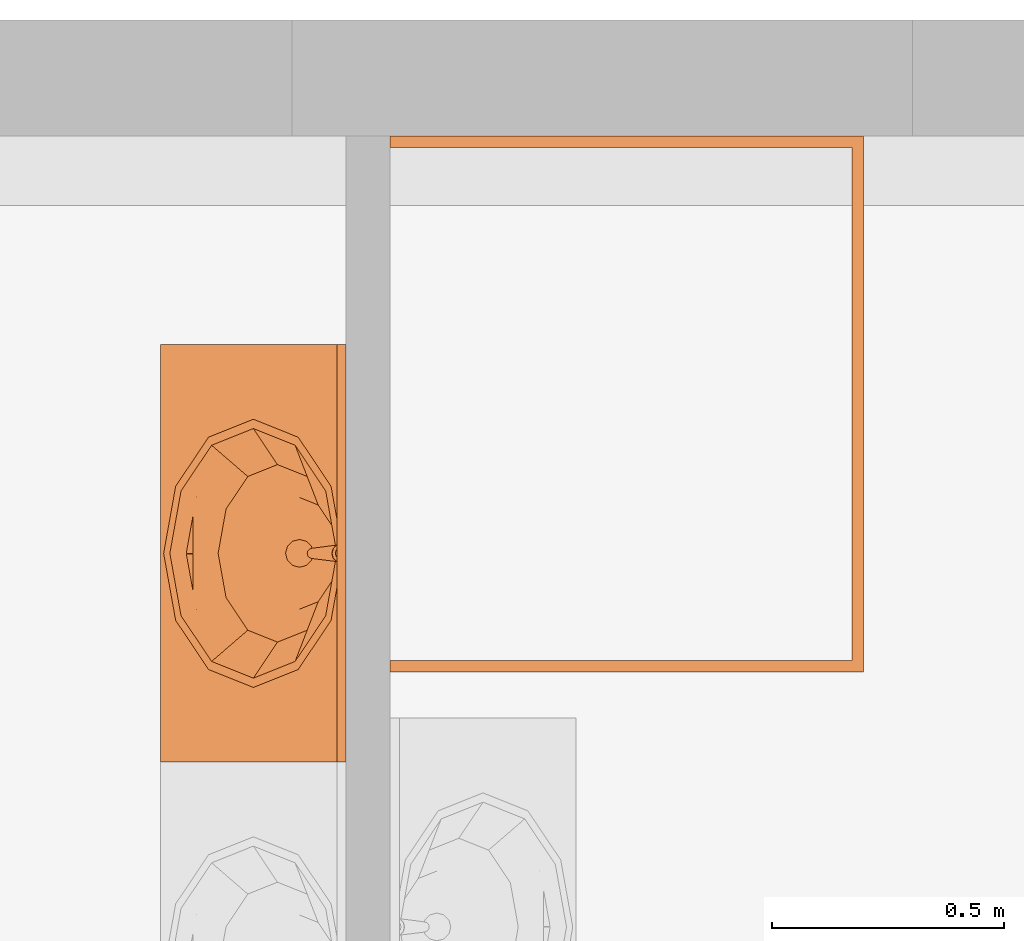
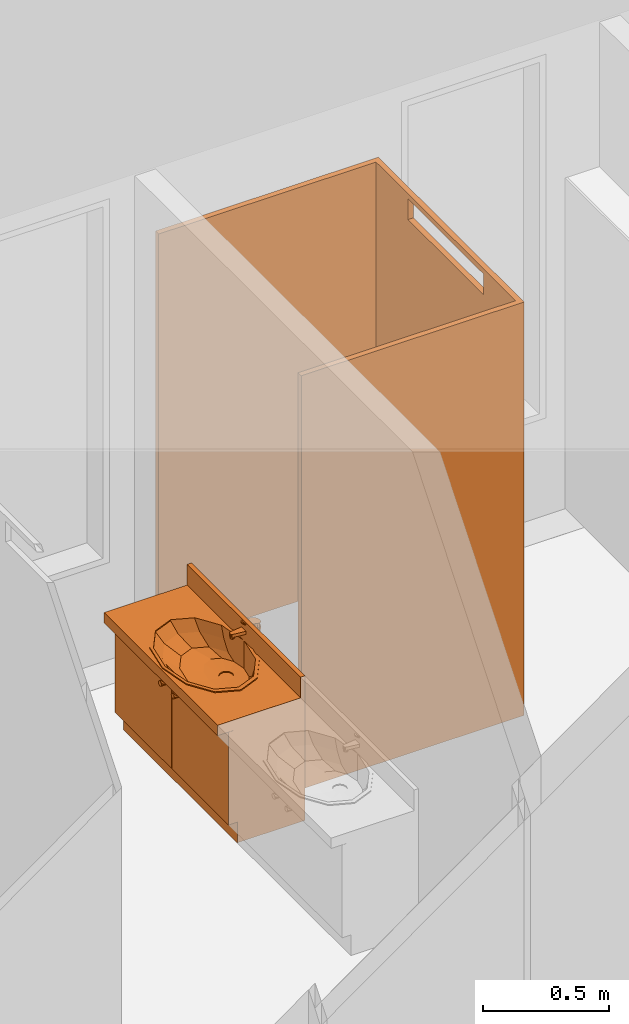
# One storey, part 13 of 14: 2 proxies.
"""IFC2X3 building model written with IfcOpenShell, lengths in millimetres."""

from ifc_helpers import new_model, entity, si_unit, converted_unit, direction, frame, origin_with_axes, place, context, project, spatial, open_shell, faceted_brep, surface_model, material, element, save


model = new_model("IFC2X3")

# Units and contexts
model_context = context("Model", 3, precision=1e-05, world=origin_with_axes(), true_north=direction((0.0, 1.0)))
ifc_project = project(units=[si_unit("LENGTHUNIT", "METRE", prefix="MILLI"), si_unit("AREAUNIT", "SQUARE_METRE"), si_unit("VOLUMEUNIT", "CUBIC_METRE"), converted_unit("PLANEANGLEUNIT", "DEGREE", entity("IfcPlaneAngleMeasure", 0.017453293), si_unit("PLANEANGLEUNIT", "RADIAN"), dimensions=[0, 0, 0, 0, 0, 0, 0]), si_unit("SOLIDANGLEUNIT", "STERADIAN"), si_unit("MASSUNIT", "GRAM"), si_unit("TIMEUNIT", "SECOND"), si_unit("THERMODYNAMICTEMPERATUREUNIT", "DEGREE_CELSIUS"), si_unit("LUMINOUSINTENSITYUNIT", "LUMEN")], contexts=[model_context])

# Site, building, storey
site_placement = place(None, origin_with_axes())
site = spatial("IfcSite", under=ifc_project, at=site_placement, Name="\x83T\x83C\x83g", CompositionType="ELEMENT")
building_placement = place(site_placement, origin_with_axes())
building = spatial("IfcBuilding", under=site, at=building_placement, Name="Daitec-Sample 201208", CompositionType="ELEMENT")
storey_placement = place(building_placement, frame((0.0, 0.0, 4000.0), z_axis=(0.0, 0.0, 1.0), x_axis=(1.0, 0.0, 0.0)))
storey = spatial("IfcBuildingStorey", under=building, at=storey_placement, Name="2F", CompositionType="ELEMENT", Elevation=4000.0)

# Proxies
ifc_material = material(Name="\x94w\x8ci")
proxy_1_placement = place(storey_placement, frame((22065.041, 22394.354, 0.0), z_axis=(0.0, 0.0, 1.0), x_axis=(0.0, 1.0, 0.0)))
element("IfcBuildingElementProxy", 1, at=proxy_1_placement, inside=storey, material=ifc_material, Name="O0", CompositionType="ELEMENT", context=model_context, shape_type="Brep", body=[
    faceted_brep([(0.0, 0.0, 200.0), (277.82295, 0.0, 200.0), (277.82295, 0.0, 1975.0), (0.0, 0.0, 1975.0), (0.0, 25.0, 200.0), (277.82295, 25.0, 200.0), (277.82295, 25.0, 1975.0), (0.0, 25.0, 1975.0)], [[[0, 1, 2, 3]], [[0, 4, 5, 1]], [[1, 5, 6, 2]], [[3, 2, 6, 7]], [[4, 0, 3, 7]], [[5, 4, 7, 6]]]),
    faceted_brep([(877.82295, 0.0, 200.0), (1155.6459, 0.0, 200.0), (1155.6459, 0.0, 1975.0), (877.82295, 0.0, 1975.0), (877.82295, 25.0, 200.0), (1155.6459, 25.0, 200.0), (1155.6459, 25.0, 1975.0), (877.82295, 25.0, 1975.0)], [[[0, 1, 2, 3]], [[0, 4, 5, 1]], [[1, 5, 6, 2]], [[3, 2, 6, 7]], [[4, 0, 3, 7]], [[5, 4, 7, 6]]]),
    faceted_brep([(0.0, 0.0, 0.0), (277.82295, 0.0, 0.0), (277.82295, 0.0, 200.0), (0.0, 0.0, 200.0), (0.0, 25.0, 0.0), (277.82295, 25.0, 0.0), (277.82295, 25.0, 200.0), (0.0, 25.0, 200.0)], [[[0, 1, 2, 3]], [[0, 4, 5, 1]], [[1, 5, 6, 2]], [[3, 2, 6, 7]], [[4, 0, 3, 7]], [[5, 4, 7, 6]]]),
    faceted_brep([(877.82295, 0.0, 0.0), (1155.6459, 0.0, 0.0), (1155.6459, 0.0, 200.0), (877.82295, 0.0, 200.0), (877.82295, 25.0, 0.0), (1155.6459, 25.0, 0.0), (1155.6459, 25.0, 200.0), (877.82295, 25.0, 200.0)], [[[0, 1, 2, 3]], [[0, 4, 5, 1]], [[1, 5, 6, 2]], [[3, 2, 6, 7]], [[4, 0, 3, 7]], [[5, 4, 7, 6]]]),
    faceted_brep([(1155.6459, 0.0, 1975.0), (1155.6459, 25.0, 1975.0), (1155.6459, 25.0, 2000.0), (1155.6459, 0.0, 2000.0), (0.0, 0.0, 1975.0), (0.0, 25.0, 1975.0), (0.0, 25.0, 2000.0), (0.0, 0.0, 2000.0)], [[[0, 1, 2, 3]], [[0, 4, 5, 1]], [[1, 5, 6, 2]], [[3, 2, 6, 7]], [[4, 0, 3, 7]], [[5, 4, 7, 6]]]),
    faceted_brep([(277.82295, 0.0, 50.0), (877.82295, 0.0, 50.0), (877.82295, 0.0, 1875.0), (277.82295, 0.0, 1875.0), (277.82295, 25.0, 50.0), (877.82295, 25.0, 50.0), (877.82295, 25.0, 1875.0), (277.82295, 25.0, 1875.0)], [[[0, 1, 2, 3]], [[0, 4, 5, 1]], [[1, 5, 6, 2]], [[3, 2, 6, 7]], [[4, 0, 3, 7]], [[5, 4, 7, 6]]]),
    faceted_brep([(25.0, 25.0, 0.0), (25.0, 1019.9703, 0.0), (25.0, 1019.9703, 2000.0), (25.0, 25.0, 2000.0), (0.0, 25.0, 0.0), (0.0, 1019.9703, 0.0), (0.0, 1019.9703, 2000.0), (0.0, 25.0, 2000.0)], [[[0, 1, 2, 3]], [[0, 4, 5, 1]], [[1, 5, 6, 2]], [[3, 2, 6, 7]], [[4, 0, 3, 7]], [[5, 4, 7, 6]]]),
    faceted_brep([(25.0, 25.0, 1775.0), (25.0, 1019.9703, 1775.0), (25.0, 1019.9703, 1800.0), (25.0, 25.0, 1800.0), (0.0, 25.0, 1775.0), (0.0, 1019.9703, 1775.0), (0.0, 1019.9703, 1800.0), (0.0, 25.0, 1800.0)], [[[0, 1, 2, 3]], [[0, 4, 5, 1]], [[1, 5, 6, 2]], [[3, 2, 6, 7]], [[4, 0, 3, 7]], [[5, 4, 7, 6]]]),
    faceted_brep([(1155.6459, 25.0, 0.0), (1155.6459, 1019.9703, 0.0), (1155.6459, 1019.9703, 2000.0), (1155.6459, 25.0, 2000.0), (1130.6459, 25.0, 0.0), (1130.6459, 1019.9703, 0.0), (1130.6459, 1019.9703, 2000.0), (1130.6459, 25.0, 2000.0)], [[[0, 1, 2, 3]], [[0, 4, 5, 1]], [[1, 5, 6, 2]], [[3, 2, 6, 7]], [[4, 0, 3, 7]], [[5, 4, 7, 6]]]),
    faceted_brep([(1155.6459, 25.0, 1775.0), (1155.6459, 1019.9703, 1775.0), (1155.6459, 1019.9703, 1800.0), (1155.6459, 25.0, 1800.0), (1130.6459, 25.0, 1775.0), (1130.6459, 1019.9703, 1775.0), (1130.6459, 1019.9703, 1800.0), (1130.6459, 25.0, 1800.0)], [[[0, 1, 2, 3]], [[0, 4, 5, 1]], [[1, 5, 6, 2]], [[3, 2, 6, 7]], [[4, 0, 3, 7]], [[5, 4, 7, 6]]]),
])
proxy_2_placement = place(storey_placement, frame((20550.071, 22200.379, 0.0), z_axis=(0.0, 0.0, 1.0), x_axis=(0.0, -1.0, 0.0)))
element("IfcBuildingElementProxy", 2, at=proxy_2_placement, inside=storey, material=ifc_material, Name="O2", context=model_context, shape_type="Brep", body=[
    faceted_brep([(0.0, 90.0, 0.0), (0.0, 90.0, 100.0), (-900.0, 90.0, 100.0), (-900.0, 90.0, 0.0), (0.0, 400.0, 0.0), (0.0, 400.0, 100.0), (-900.0, 400.0, 100.0), (-900.0, 400.0, 0.0)], [[[0, 1, 2, 3]], [[4, 5, 1, 0]], [[1, 5, 6, 2]], [[3, 2, 6, 7]], [[0, 3, 7, 4]], [[7, 6, 5, 4]]]),
    faceted_brep([(0.0, 70.0, 100.0), (0.0, 70.0, 120.0), (-20.0, 70.0, 120.0), (-20.0, 70.0, 100.0), (0.0, 400.0, 100.0), (0.0, 400.0, 120.0), (-20.0, 400.0, 120.0), (-880.0, 400.0, 120.0), (-900.0, 400.0, 120.0), (-900.0, 70.0, 120.0), (-880.0, 70.0, 120.0), (-880.0, 70.0, 100.0), (-900.0, 70.0, 100.0), (-900.0, 400.0, 100.0), (-880.0, 400.0, 100.0), (-20.0, 400.0, 100.0)], [[[0, 1, 2, 3]], [[4, 5, 1, 0]], [[1, 5, 6, 7, 8, 9, 10, 2]], [[3, 2, 10, 11]], [[0, 3, 11, 12, 13, 14, 15, 4]], [[15, 6, 5, 4]], [[14, 7, 6, 15]], [[13, 8, 7, 14]], [[12, 9, 8, 13]], [[11, 10, 9, 12]]]),
    faceted_brep([(0.0, 70.0, 120.0), (0.0, 70.0, 550.0), (-20.0, 70.0, 550.0), (-20.0, 70.0, 120.0), (0.0, 400.0, 120.0), (0.0, 400.0, 550.0), (-900.0, 400.0, 550.0), (-900.0, 70.0, 550.0), (-880.0, 70.0, 550.0), (-880.0, 380.0, 550.0), (-20.0, 380.0, 550.0), (-20.0, 380.0, 120.0), (-880.0, 380.0, 120.0), (-880.0, 70.0, 120.0), (-900.0, 70.0, 120.0), (-900.0, 400.0, 120.0)], [[[0, 1, 2, 3]], [[4, 5, 1, 0]], [[1, 5, 6, 7, 8, 9, 10, 2]], [[3, 2, 10, 11]], [[0, 3, 11, 12, 13, 14, 15, 4]], [[15, 6, 5, 4]], [[14, 7, 6, 15]], [[13, 8, 7, 14]], [[12, 9, 8, 13]], [[11, 10, 9, 12]]]),
    faceted_brep([(-880.0, 70.0, 223.33333), (-880.0, 70.0, 243.33333), (-880.0, 380.0, 243.33333), (-880.0, 380.0, 223.33333), (-20.0, 70.0, 223.33333), (-20.0, 70.0, 243.33333), (-20.0, 380.0, 243.33333), (-20.0, 380.0, 223.33333)], [[[0, 1, 2, 3]], [[4, 5, 1, 0]], [[1, 5, 6, 2]], [[3, 2, 6, 7]], [[0, 3, 7, 4]], [[7, 6, 5, 4]]]),
    faceted_brep([(-880.0, 70.0, 366.66667), (-880.0, 70.0, 386.66667), (-880.0, 380.0, 386.66667), (-880.0, 380.0, 366.66667), (-20.0, 70.0, 366.66667), (-20.0, 70.0, 386.66667), (-20.0, 380.0, 386.66667), (-20.0, 380.0, 366.66667)], [[[0, 1, 2, 3]], [[4, 5, 1, 0]], [[1, 5, 6, 2]], [[3, 2, 6, 7]], [[0, 3, 7, 4]], [[7, 6, 5, 4]]]),
    faceted_brep([(0.0, 400.0, 550.0), (0.0, 0.0, 550.0), (-900.0, 0.0, 550.0), (-900.0, 400.0, 550.0), (-216.17314, 290.0, 550.0), (-315.0, 355.88457, 550.0), (-450.0, 380.0, 550.0), (-585.0, 355.88457, 550.0), (-683.82686, 290.0, 550.0), (-720.0, 200.0, 550.0), (-683.82686, 110.0, 550.0), (-585.0, 44.115427, 550.0), (-450.0, 20.0, 550.0), (-315.0, 44.115427, 550.0), (-216.17314, 110.0, 550.0), (-180.0, 200.0, 550.0), (0.0, 400.0, 600.0), (0.0, 0.0, 600.0), (-900.0, 0.0, 600.0), (-900.0, 400.0, 600.0), (-216.17314, 290.0, 600.0), (-315.0, 355.88457, 600.0), (-450.0, 380.0, 600.0), (-585.0, 355.88457, 600.0), (-683.82686, 290.0, 600.0), (-720.0, 200.0, 600.0), (-683.82686, 110.0, 600.0), (-585.0, 44.115427, 600.0), (-450.0, 20.0, 600.0), (-315.0, 44.115427, 600.0), (-216.17314, 110.0, 600.0), (-180.0, 200.0, 600.0)], [[[0, 1, 2, 3], [4, 5, 6, 7, 8, 9, 10, 11, 12, 13, 14, 15]], [[1, 0, 16, 17]], [[2, 1, 17, 18]], [[3, 2, 18, 19]], [[0, 3, 19, 16]], [[20, 21, 5, 4]], [[21, 22, 6, 5]], [[22, 23, 7, 6]], [[23, 24, 8, 7]], [[24, 25, 9, 8]], [[25, 26, 10, 9]], [[26, 27, 11, 10]], [[27, 28, 12, 11]], [[28, 29, 13, 12]], [[29, 30, 14, 13]], [[30, 31, 15, 14]], [[31, 20, 4, 15]], [[18, 17, 16, 19], [24, 23, 22, 21, 20, 31, 30, 29, 28, 27, 26, 25]]]),
    faceted_brep([(0.0, 380.0, 600.0), (0.0, 380.0, 700.0), (-900.0, 380.0, 700.0), (-900.0, 380.0, 600.0), (0.0, 400.0, 600.0), (0.0, 400.0, 700.0), (-900.0, 400.0, 700.0), (-900.0, 400.0, 600.0)], [[[0, 1, 2, 3]], [[4, 5, 1, 0]], [[1, 5, 6, 2]], [[3, 2, 6, 7]], [[0, 3, 7, 4]], [[7, 6, 5, 4]]]),
    faceted_brep([(-739.0, 200.0, 605.0), (-700.28134, 296.69145, 605.0), (-700.28134, 296.69145, 600.0), (-739.0, 200.0, 600.0), (-700.28134, 103.30855, 605.0), (-594.5, 32.525496, 605.0), (-450.0, 6.6171004, 605.0), (-305.5, 32.525496, 605.0), (-199.71866, 103.30855, 605.0), (-161.0, 200.0, 605.0), (-199.71866, 296.69145, 605.0), (-305.5, 367.4745, 605.0), (-450.0, 393.3829, 605.0), (-594.5, 367.4745, 605.0), (-719.0, 200.0, 605.0), (-682.96083, 290.0, 605.0), (-584.5, 355.88457, 605.0), (-450.0, 380.0, 605.0), (-315.5, 355.88457, 605.0), (-217.03917, 290.0, 605.0), (-181.0, 200.0, 605.0), (-217.03917, 110.0, 605.0), (-315.5, 44.115427, 605.0), (-450.0, 20.0, 605.0), (-584.5, 44.115427, 605.0), (-682.96083, 110.0, 605.0), (-594.5, 367.4745, 600.0), (-450.0, 393.3829, 600.0), (-305.5, 367.4745, 600.0), (-199.71866, 296.69145, 600.0), (-161.0, 200.0, 600.0), (-199.71866, 103.30855, 600.0), (-305.5, 32.525496, 600.0), (-450.0, 6.6171004, 600.0), (-594.5, 32.525496, 600.0), (-700.28134, 103.30855, 600.0), (-719.0, 200.0, 600.0), (-682.96083, 110.0, 600.0), (-584.5, 44.115427, 600.0), (-450.0, 20.0, 600.0), (-315.5, 44.115427, 600.0), (-217.03917, 110.0, 600.0), (-181.0, 200.0, 600.0), (-217.03917, 290.0, 600.0), (-315.5, 355.88457, 600.0), (-450.0, 380.0, 600.0), (-584.5, 355.88457, 600.0), (-682.96083, 290.0, 600.0)], [[[0, 1, 2, 3]], [[0, 4, 5, 6, 7, 8, 9, 10, 11, 12, 13, 1], [14, 15, 16, 17, 18, 19, 20, 21, 22, 23, 24, 25]], [[1, 13, 26, 2]], [[3, 2, 26, 27, 28, 29, 30, 31, 32, 33, 34, 35], [36, 37, 38, 39, 40, 41, 42, 43, 44, 45, 46, 47]], [[4, 0, 3, 35]], [[5, 4, 35, 34]], [[6, 5, 34, 33]], [[7, 6, 33, 32]], [[8, 7, 32, 31]], [[9, 8, 31, 30]], [[10, 9, 30, 29]], [[11, 10, 29, 28]], [[12, 11, 28, 27]], [[13, 12, 27, 26]], [[15, 14, 36, 47]], [[16, 15, 47, 46]], [[17, 16, 46, 45]], [[18, 17, 45, 44]], [[19, 18, 44, 43]], [[20, 19, 43, 42]], [[21, 20, 42, 41]], [[22, 21, 41, 40]], [[23, 22, 40, 39]], [[24, 23, 39, 38]], [[25, 24, 38, 37]], [[14, 25, 37, 36]]]),
    surface_model("IfcShellBasedSurfaceModel", [(-450.0, 380.0, 600.0), (-584.5, 355.88457, 600.0), (-571.05, 358.29612, 548.0), (-450.0, 380.0, 548.0), (-682.96083, 290.0, 600.0), (-659.66475, 299.0, 548.0), (-315.5, 355.88457, 600.0), (-328.95, 358.29612, 548.0), (-719.0, 200.0, 600.0), (-692.1, 218.0, 548.0), (-217.03917, 290.0, 600.0), (-240.33525, 299.0, 548.0), (-682.96083, 110.0, 600.0), (-659.66475, 137.0, 548.0), (-181.0, 200.0, 600.0), (-207.9, 218.0, 548.0), (-584.5, 44.115427, 600.0), (-571.05, 77.703885, 548.0), (-217.03917, 110.0, 600.0), (-240.33525, 137.0, 548.0), (-450.0, 20.0, 600.0), (-450.0, 56.0, 548.0), (-315.5, 44.115427, 600.0), (-328.95, 77.703885, 548.0)], [open_shell([[[0, 1, 2, 3]], [[1, 4, 5, 2]], [[6, 0, 3, 7]], [[4, 8, 9, 5]], [[10, 6, 7, 11]], [[8, 12, 13, 9]], [[14, 10, 11, 15]], [[12, 16, 17, 13]], [[18, 14, 15, 19]], [[16, 20, 21, 17]], [[22, 18, 19, 23]], [[20, 22, 23, 21]]])]),
    surface_model("IfcShellBasedSurfaceModel", [(-450.0, 380.0, 548.0), (-571.05, 358.29612, 548.0), (-545.6295, 362.85393, 496.0), (-450.0, 380.0, 496.0), (-659.66475, 299.0, 548.0), (-615.63515, 316.01, 496.0), (-328.95, 358.29612, 548.0), (-354.3705, 362.85393, 496.0), (-692.1, 218.0, 548.0), (-641.259, 252.02, 496.0), (-240.33525, 299.0, 548.0), (-284.36485, 316.01, 496.0), (-659.66475, 137.0, 548.0), (-615.63515, 188.03, 496.0), (-207.9, 218.0, 548.0), (-258.741, 252.02, 496.0), (-571.05, 77.703885, 548.0), (-545.6295, 141.18607, 496.0), (-240.33525, 137.0, 548.0), (-284.36485, 188.03, 496.0), (-450.0, 56.0, 548.0), (-450.0, 124.04, 496.0), (-328.95, 77.703885, 548.0), (-354.3705, 141.18607, 496.0)], [open_shell([[[0, 1, 2, 3]], [[1, 4, 5, 2]], [[6, 0, 3, 7]], [[4, 8, 9, 5]], [[10, 6, 7, 11]], [[8, 12, 13, 9]], [[14, 10, 11, 15]], [[12, 16, 17, 13]], [[18, 14, 15, 19]], [[16, 20, 21, 17]], [[22, 18, 19, 23]], [[20, 22, 23, 21]]])]),
    surface_model("IfcShellBasedSurfaceModel", [(-450.0, 380.0, 496.0), (-545.6295, 362.85393, 496.0), (-510.24659, 369.19798, 470.0), (-450.0, 380.0, 470.0), (-615.63515, 316.01, 496.0), (-554.35015, 339.6863, 470.0), (-354.3705, 362.85393, 496.0), (-389.75341, 369.19798, 470.0), (-641.259, 252.02, 496.0), (-570.49317, 299.3726, 470.0), (-284.36485, 316.01, 496.0), (-345.64985, 339.6863, 470.0), (-615.63515, 188.03, 496.0), (-554.35015, 259.0589, 470.0), (-258.741, 252.02, 496.0), (-329.50683, 299.3726, 470.0), (-545.6295, 141.18607, 496.0), (-510.24659, 229.54722, 470.0), (-284.36485, 188.03, 496.0), (-345.64985, 259.0589, 470.0), (-450.0, 124.04, 496.0), (-450.0, 218.7452, 470.0), (-354.3705, 141.18607, 496.0), (-389.75341, 229.54722, 470.0)], [open_shell([[[0, 1, 2, 3]], [[1, 4, 5, 2]], [[6, 0, 3, 7]], [[4, 8, 9, 5]], [[10, 6, 7, 11]], [[8, 12, 13, 9]], [[14, 10, 11, 15]], [[12, 16, 17, 13]], [[18, 14, 15, 19]], [[16, 20, 21, 17]], [[22, 18, 19, 23]], [[20, 22, 23, 21]]])]),
    surface_model("IfcShellBasedSurfaceModel", [(-450.0, 380.0, 470.0), (-510.24659, 369.19798, 470.0), (-465.0, 325.35336, 463.0), (-475.98076, 314.3726, 463.0), (-450.0, 329.3726, 463.0), (-554.35015, 339.6863, 470.0), (-389.75341, 369.19798, 470.0), (-480.0, 299.3726, 463.0), (-435.0, 325.35336, 463.0), (-570.49317, 299.3726, 470.0), (-345.64985, 339.6863, 470.0), (-475.98076, 284.3726, 463.0), (-424.01924, 314.3726, 463.0), (-554.35015, 259.0589, 470.0), (-329.50683, 299.3726, 470.0), (-465.0, 273.39184, 463.0), (-420.0, 299.3726, 463.0), (-510.24659, 229.54722, 470.0), (-345.64985, 259.0589, 470.0), (-450.0, 269.3726, 463.0), (-424.01924, 284.3726, 463.0), (-450.0, 218.7452, 470.0), (-389.75341, 229.54722, 470.0), (-435.0, 273.39184, 463.0)], [open_shell([[[0, 1, 2]], [[1, 3, 2]], [[0, 2, 4]], [[1, 5, 3]], [[6, 0, 4]], [[5, 7, 3]], [[6, 4, 8]], [[5, 9, 7]], [[10, 6, 8]], [[9, 11, 7]], [[10, 8, 12]], [[9, 13, 11]], [[14, 10, 12]], [[13, 15, 11]], [[14, 12, 16]], [[13, 17, 15]], [[18, 14, 16]], [[17, 19, 15]], [[18, 16, 20]], [[17, 21, 19]], [[22, 18, 20]], [[21, 23, 19]], [[22, 20, 23]], [[21, 22, 23]]])]),
    surface_model("IfcShellBasedSurfaceModel", [(-480.0, 299.3726, 463.0), (-475.98076, 314.3726, 463.0), (-475.98076, 314.3726, 458.0), (-480.0, 299.3726, 458.0), (-465.0, 325.35336, 463.0), (-465.0, 325.35336, 458.0), (-450.0, 329.3726, 458.0), (-435.0, 325.35336, 458.0), (-424.01924, 314.3726, 458.0), (-420.0, 299.3726, 458.0), (-424.01924, 284.3726, 458.0), (-435.0, 273.39184, 458.0), (-450.0, 269.3726, 458.0), (-465.0, 273.39184, 458.0), (-475.98076, 284.3726, 458.0), (-475.98076, 284.3726, 463.0), (-450.0, 329.3726, 463.0), (-435.0, 325.35336, 463.0), (-424.01924, 314.3726, 463.0), (-420.0, 299.3726, 463.0), (-424.01924, 284.3726, 463.0), (-435.0, 273.39184, 463.0), (-450.0, 269.3726, 463.0), (-465.0, 273.39184, 463.0)], [open_shell([[[0, 1, 2, 3]], [[1, 4, 5, 2]], [[3, 2, 5, 6, 7, 8, 9, 10, 11, 12, 13, 14]], [[15, 0, 3, 14]], [[4, 16, 6, 5]], [[16, 17, 7, 6]], [[17, 18, 8, 7]], [[18, 19, 9, 8]], [[19, 20, 10, 9]], [[20, 21, 11, 10]], [[21, 22, 12, 11]], [[22, 23, 13, 12]], [[23, 15, 14, 13]]])]),
    faceted_brep([(-462.5, 451.65064, 600.0), (-460.58732, 448.33778, 676.50709), (-450.0, 451.20192, 675.96154), (-450.0, 455.0, 600.0), (-471.65064, 442.5, 600.0), (-468.27355, 440.55024, 677.99043), (-471.0, 430.0, 680.0), (-468.10034, 419.54976, 681.99052), (-460.41411, 411.96224, 683.43576), (-450.0, 409.19811, 683.96226), (-439.58589, 411.96224, 683.43576), (-431.89966, 419.54976, 681.99052), (-429.0, 430.0, 680.0), (-431.72645, 440.55024, 677.99043), (-439.41268, 448.33778, 676.50709), (-437.5, 451.65064, 600.0), (-428.34936, 442.5, 600.0), (-425.0, 430.0, 600.0), (-428.34936, 417.5, 600.0), (-437.5, 408.34936, 600.0), (-450.0, 405.0, 600.0), (-462.5, 408.34936, 600.0), (-471.65064, 417.5, 600.0), (-475.0, 430.0, 600.0)], [[[0, 1, 2, 3]], [[4, 5, 1, 0]], [[1, 5, 6, 7, 8, 9, 10, 11, 12, 13, 14, 2]], [[3, 2, 14, 15]], [[0, 3, 15, 16, 17, 18, 19, 20, 21, 22, 23, 4]], [[23, 6, 5, 4]], [[22, 7, 6, 23]], [[21, 8, 7, 22]], [[20, 9, 8, 21]], [[19, 10, 9, 20]], [[18, 11, 10, 19]], [[17, 12, 11, 18]], [[16, 13, 12, 17]], [[15, 14, 13, 16]]]),
    faceted_brep([(-459.0, 327.0, 635.0), (-459.0, 327.0, 645.0), (-457.79423, 331.5, 645.0), (-457.79423, 331.5, 635.0), (-457.79423, 322.5, 635.0), (-457.79423, 322.5, 645.0), (-454.5, 319.20577, 645.0), (-450.0, 318.0, 645.0), (-445.5, 319.20577, 645.0), (-442.20577, 322.5, 645.0), (-441.0, 327.0, 645.0), (-442.20577, 331.5, 645.0), (-445.5, 334.79423, 645.0), (-450.0, 336.0, 645.0), (-454.5, 334.79423, 645.0), (-454.5, 334.79423, 635.0), (-450.0, 336.0, 635.0), (-445.5, 334.79423, 635.0), (-442.20577, 331.5, 635.0), (-441.0, 327.0, 635.0), (-442.20577, 322.5, 635.0), (-445.5, 319.20577, 635.0), (-450.0, 318.0, 635.0), (-454.5, 319.20577, 635.0)], [[[0, 1, 2, 3]], [[4, 5, 1, 0]], [[1, 5, 6, 7, 8, 9, 10, 11, 12, 13, 14, 2]], [[3, 2, 14, 15]], [[0, 3, 15, 16, 17, 18, 19, 20, 21, 22, 23, 4]], [[23, 6, 5, 4]], [[22, 7, 6, 23]], [[21, 8, 7, 22]], [[20, 9, 8, 21]], [[19, 10, 9, 20]], [[18, 11, 10, 19]], [[17, 12, 11, 18]], [[16, 13, 12, 17]], [[15, 14, 13, 16]]]),
    faceted_brep([(-440.97112, 320.71681, 660.0), (-439.08801, 325.61163, 660.0), (-426.1946, 426.9501, 660.0), (-428.27219, 440.19321, 660.0), (-437.12828, 450.2563, 660.0), (-450.0, 453.99998, 660.0), (-462.87172, 450.2563, 660.0), (-471.72781, 440.1932, 660.0), (-473.8054, 426.9501, 660.0), (-460.912, 325.6117, 660.0), (-459.02892, 320.71687, 660.0), (-455.09339, 317.25031, 660.0), (-450.00004, 316.00004, 660.0), (-444.90668, 317.25027, 660.0), (-469.05256, 441.0, 660.0), (-461.0, 449.05256, 660.0), (-450.0, 452.0, 660.0), (-439.0, 449.05256, 660.0), (-430.94744, 441.0, 660.0), (-428.0, 430.0, 660.0), (-430.94744, 419.0, 660.0), (-439.0, 410.94744, 660.0), (-450.0, 408.0, 660.0), (-461.0, 410.94744, 660.0), (-469.05256, 419.0, 660.0), (-472.0, 430.0, 660.0), (-440.97112, 320.71681, 645.0), (-439.08801, 325.61163, 645.0), (-426.1946, 426.9501, 645.0), (-428.27219, 440.19321, 645.0), (-437.12828, 450.2563, 645.0), (-450.0, 453.99998, 645.0), (-462.87172, 450.2563, 645.0), (-471.72781, 440.1932, 645.0), (-473.8054, 426.9501, 645.0), (-460.912, 325.6117, 645.0), (-459.02892, 320.71687, 645.0), (-455.09339, 317.25031, 645.0), (-450.00004, 316.00004, 645.0), (-444.90668, 317.25027, 645.0), (-469.70208, 441.375, 645.0), (-461.375, 449.70208, 645.0), (-450.0, 452.75, 645.0), (-438.625, 449.70208, 645.0), (-430.29792, 441.375, 645.0), (-427.25, 430.0, 645.0), (-430.29792, 418.625, 645.0), (-438.625, 410.29792, 645.0), (-450.0, 407.25, 645.0), (-461.375, 410.29792, 645.0), (-469.70208, 418.625, 645.0), (-472.75, 430.0, 645.0)], [[[0, 1, 2, 3, 4, 5, 6, 7, 8, 9, 10, 11, 12, 13], [14, 15, 16, 17, 18, 19, 20, 21, 22, 23, 24, 25]], [[26, 27, 1, 0]], [[27, 28, 2, 1]], [[28, 29, 3, 2]], [[29, 30, 4, 3]], [[30, 31, 5, 4]], [[31, 32, 6, 5]], [[32, 33, 7, 6]], [[33, 34, 8, 7]], [[34, 35, 9, 8]], [[35, 36, 10, 9]], [[36, 37, 11, 10]], [[37, 38, 12, 11]], [[38, 39, 13, 12]], [[39, 26, 0, 13]], [[40, 41, 15, 14]], [[41, 42, 16, 15]], [[42, 43, 17, 16]], [[43, 44, 18, 17]], [[44, 45, 19, 18]], [[20, 19, 45, 46]], [[21, 20, 46, 47]], [[22, 21, 47, 48]], [[23, 22, 48, 49]], [[24, 23, 49, 50]], [[50, 51, 25, 24]], [[51, 40, 14, 25]], [[28, 27, 26, 39, 38, 37, 36, 35, 34, 33, 32, 31, 30, 29], [44, 43, 42, 41, 40, 51, 50, 49, 48, 47, 46, 45]]]),
    faceted_brep([(-473.893, 428.30743, 680.32239), (-473.893, 429.05588, 684.25175), (-471.29642, 441.52317, 681.87703), (-471.29642, 440.77472, 677.94767), (-470.94594, 388.1633, 687.9689), (-470.94594, 388.91175, 691.89825), (-467.66314, 379.23408, 693.74161), (-460.06144, 372.2847, 695.06531), (-449.99956, 369.76284, 695.54566), (-439.93779, 372.28512, 695.06523), (-432.33638, 379.23481, 693.74148), (-429.054, 388.91261, 691.89808), (-426.10698, 429.05616, 684.2517), (-428.70371, 441.52342, 681.87698), (-437.52832, 450.83965, 680.10246), (-450.00014, 454.28041, 679.44708), (-462.47192, 450.8395, 680.10249), (-464.0, 405.20765, 688.79427), (-436.0, 405.20765, 688.79427), (-436.0, 390.39202, 691.61629), (-437.87564, 383.51565, 692.92608), (-443.0, 378.48179, 693.88491), (-450.0, 376.63928, 694.23586), (-457.0, 378.48179, 693.88491), (-462.12436, 383.51565, 692.92608), (-464.0, 390.39202, 691.61629), (-462.47192, 450.09105, 676.17313), (-450.00014, 453.53196, 675.51772), (-437.52832, 450.0912, 676.17311), (-428.70371, 440.77497, 677.94763), (-426.10698, 428.30771, 680.32234), (-429.054, 388.16417, 687.96873), (-432.33638, 378.48636, 689.81212), (-439.93779, 371.53667, 691.13587), (-449.99956, 369.01439, 691.61631), (-460.06144, 371.53625, 691.13595), (-467.66314, 378.48563, 689.81226), (-464.0, 404.4592, 684.86491), (-464.0, 389.64357, 687.68694), (-462.12436, 382.7672, 688.99672), (-457.0, 377.73334, 689.95555), (-450.0, 375.89083, 690.30651), (-443.0, 377.73334, 689.95555), (-437.87564, 382.7672, 688.99672), (-436.0, 389.64357, 687.68694), (-436.0, 404.4592, 684.86491)], [[[0, 1, 2, 3]], [[4, 5, 1, 0]], [[1, 5, 6, 7, 8, 9, 10, 11, 12, 13, 14, 15, 16, 2], [17, 18, 19, 20, 21, 22, 23, 24, 25]], [[3, 2, 16, 26]], [[0, 3, 26, 27, 28, 29, 30, 31, 32, 33, 34, 35, 36, 4], [37, 38, 39, 40, 41, 42, 43, 44, 45]], [[36, 6, 5, 4]], [[35, 7, 6, 36]], [[34, 8, 7, 35]], [[33, 9, 8, 34]], [[32, 10, 9, 33]], [[31, 11, 10, 32]], [[30, 12, 11, 31]], [[29, 13, 12, 30]], [[28, 14, 13, 29]], [[27, 15, 14, 28]], [[26, 16, 15, 27]], [[45, 18, 17, 37]], [[44, 19, 18, 45]], [[43, 20, 19, 44]], [[42, 21, 20, 43]], [[41, 22, 21, 42]], [[40, 23, 22, 41]], [[39, 24, 23, 40]], [[38, 25, 24, 39]], [[37, 17, 25, 38]]]),
    faceted_brep([(0.0, 70.0, 100.0), (0.0, 50.0, 100.0), (-449.0, 50.0, 100.0), (-449.0, 70.0, 100.0), (0.0, 70.0, 549.0), (0.0, 50.0, 549.0), (-449.0, 50.0, 549.0), (-449.0, 70.0, 549.0)], [[[0, 1, 2, 3]], [[4, 5, 1, 0]], [[1, 5, 6, 2]], [[3, 2, 6, 7]], [[0, 3, 7, 4]], [[7, 6, 5, 4]]]),
    faceted_brep([(-409.3923, 50.0, 484.0), (-411.0, 50.0, 490.0), (-409.3923, 50.0, 496.0), (-405.0, 50.0, 500.3923), (-399.0, 50.0, 502.0), (-393.0, 50.0, 500.3923), (-388.6077, 50.0, 496.0), (-387.0, 50.0, 490.0), (-388.6077, 50.0, 484.0), (-393.0, 50.0, 479.6077), (-399.0, 50.0, 478.0), (-405.0, 50.0, 479.6077), (-409.3923, 25.0, 484.0), (-411.0, 25.0, 490.0), (-409.3923, 25.0, 496.0), (-405.0, 25.0, 500.3923), (-399.0, 25.0, 502.0), (-393.0, 25.0, 500.3923), (-388.6077, 25.0, 496.0), (-387.0, 25.0, 490.0), (-388.6077, 25.0, 484.0), (-393.0, 25.0, 479.6077), (-399.0, 25.0, 478.0), (-405.0, 25.0, 479.6077)], [[[0, 1, 2, 3, 4, 5, 6, 7, 8, 9, 10, 11]], [[0, 12, 13, 1]], [[1, 13, 14, 2]], [[2, 14, 15, 3]], [[3, 15, 16, 4]], [[4, 16, 17, 5]], [[5, 17, 18, 6]], [[6, 18, 19, 7]], [[7, 19, 20, 8]], [[8, 20, 21, 9]], [[9, 21, 22, 10]], [[10, 22, 23, 11]], [[11, 23, 12, 0]], [[12, 23, 22, 21, 20, 19, 18, 17, 16, 15, 14, 13]]]),
    faceted_brep([(-899.0, 70.0, 100.0), (-450.0, 70.0, 100.0), (-450.0, 50.0, 100.0), (-899.0, 50.0, 100.0), (-899.0, 70.0, 549.0), (-450.0, 70.0, 549.0), (-450.0, 50.0, 549.0), (-899.0, 50.0, 549.0)], [[[0, 1, 2, 3]], [[0, 4, 5, 1]], [[1, 5, 6, 2]], [[3, 2, 6, 7]], [[4, 0, 3, 7]], [[5, 4, 7, 6]]]),
    faceted_brep([(-489.6077, 50.0, 484.0), (-494.0, 50.0, 479.6077), (-500.0, 50.0, 478.0), (-506.0, 50.0, 479.6077), (-510.3923, 50.0, 484.0), (-512.0, 50.0, 490.0), (-510.3923, 50.0, 496.0), (-506.0, 50.0, 500.3923), (-500.0, 50.0, 502.0), (-494.0, 50.0, 500.3923), (-489.6077, 50.0, 496.0), (-488.0, 50.0, 490.0), (-489.6077, 25.0, 484.0), (-494.0, 25.0, 479.6077), (-500.0, 25.0, 478.0), (-506.0, 25.0, 479.6077), (-510.3923, 25.0, 484.0), (-512.0, 25.0, 490.0), (-510.3923, 25.0, 496.0), (-506.0, 25.0, 500.3923), (-500.0, 25.0, 502.0), (-494.0, 25.0, 500.3923), (-489.6077, 25.0, 496.0), (-488.0, 25.0, 490.0)], [[[0, 1, 2, 3, 4, 5, 6, 7, 8, 9, 10, 11]], [[1, 0, 12, 13]], [[2, 1, 13, 14]], [[3, 2, 14, 15]], [[4, 3, 15, 16]], [[5, 4, 16, 17]], [[6, 5, 17, 18]], [[7, 6, 18, 19]], [[8, 7, 19, 20]], [[9, 8, 20, 21]], [[10, 9, 21, 22]], [[11, 10, 22, 23]], [[0, 11, 23, 12]], [[12, 23, 22, 21, 20, 19, 18, 17, 16, 15, 14, 13]]]),
])

save(model, "model.ifc")
